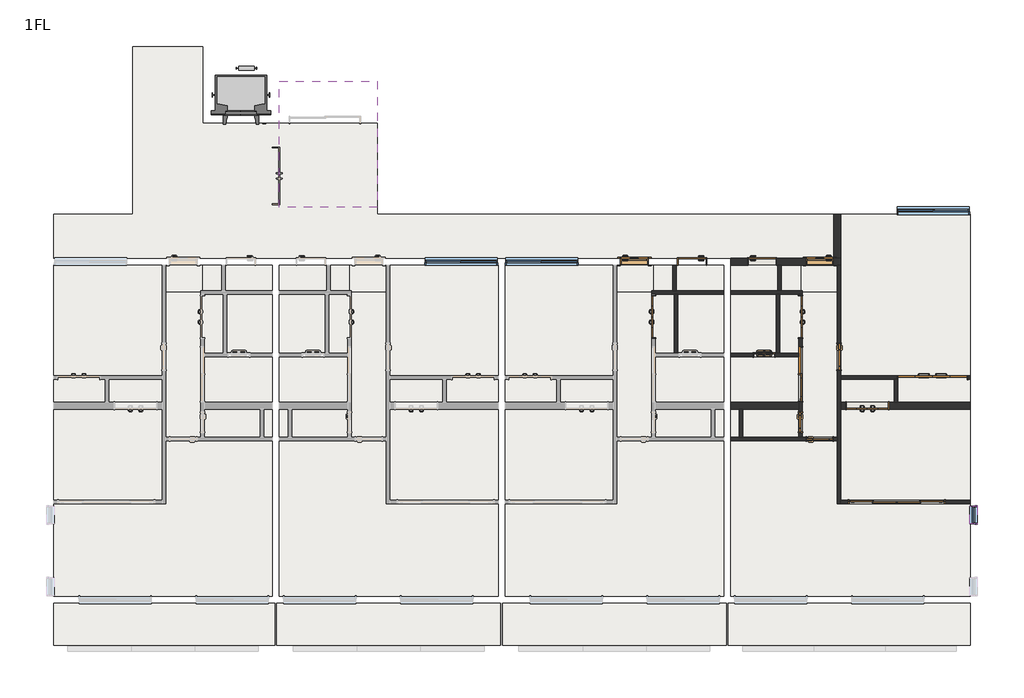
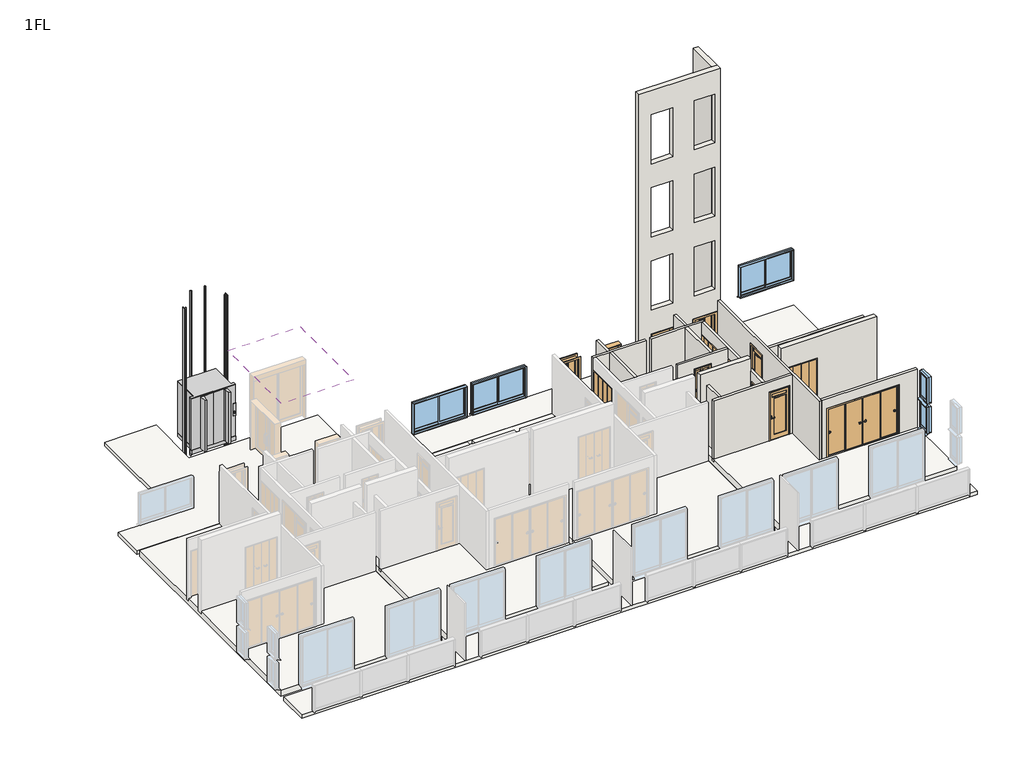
# One storey, part 3 of 3: 18 walls, 14 doors, 14 slabs, 5 windows, 1 proxy, 1 roof.
"""IFC4 building model written with IfcOpenShell, lengths in millimetres."""

from ifc_helpers import new_model, si_unit, frame, origin, place, context, project, spatial, polyline, outline, extrude, faceted_brep, transform, mapped, element, save
from components import mechanical_equipment_3dd84d69, door_1200x2000_6a144d60, door_1200x2000_ebe1d490, door_1200x2000_99d19fb3, door_1600x2000_1f5bdc43, door_2800x2000_04aa64cd, door_600x2000_8ea70a65, door_600x2000_94bb9c3c, door_800x2000_a7d1584b, door_800x2000_13e9f519, door_800x2000_ccb03061, door_800x2000_010bfebf, w2000h2000_5dbb6d6a, w800h2000_1d97c4d4, w800h2000_0ab7d42c, window_2000x1200_fc91d1cf, window_450x1000_e0a5e2da, window_450x1000_1cddc73c

model = new_model("IFC4")

# Units and contexts
model_context = context("Model", 3, world=origin())
ifc_project = project(units=[si_unit("LENGTHUNIT", "METRE", prefix="MILLI")], contexts=[model_context])

# Site, building, storey
site = spatial("IfcSite", under=ifc_project)
building = spatial("IfcBuilding", under=site)
storey = spatial("IfcBuildingStorey", under=building, Name="1FL", Elevation=1000.0)

# Proxy
placement = place(None, origin())
mechanical_equipment_shape = mechanical_equipment_3dd84d69(model_context)
element("IfcBuildingElementProxy", 1, Name="エレベータ一般 1 : 6 人乗", ObjectType="エレベータ一般 1 : 6 人乗", at=placement, inside=storey, context=model_context, shape_type="MappedRepresentation", body=[
    mapped(mechanical_equipment_shape, transform((-5728.7187246, -1650.1171638, 1000.0), x_axis=(1.0, 0.0, 0.0), y_axis=(0.0, 1.0, 0.0), z_axis=(0.0, 0.0, 1.0))),
])

# Doors
door_1200x2000_shape = door_1200x2000_6a144d60(model_context)
element("IfcDoor", 2, ObjectType="木製折戸 : 1200x2000", at=placement, inside=storey, context=model_context, shape_type="MappedRepresentation", body=[
    mapped(door_1200x2000_shape, transform((6071.2812754, -7280.1171638, 1000.0), x_axis=(0.0, 1.0, 0.0), y_axis=(-1.0, 0.0, 0.0), z_axis=(0.0, 0.0, 1.0))),
])
door_1200x2000_2_shape = door_1200x2000_ebe1d490(model_context)
element("IfcDoor", 3, ObjectType="木製折戸 : 1200x2000", at=placement, inside=storey, context=model_context, shape_type="MappedRepresentation", body=[
    mapped(door_1200x2000_2_shape, transform((12183.7812754, -9820.1171638, 1100.0), x_axis=(1.0, 0.0, 0.0), y_axis=(0.0, 1.0, 0.0), z_axis=(0.0, 0.0, 1.0))),
])
door_1200x2000_3_shape = door_1200x2000_99d19fb3(model_context)
element("IfcDoor", 4, ObjectType="木製折戸 : 1200x2000", at=placement, inside=storey, context=model_context, shape_type="MappedRepresentation", body=[
    mapped(door_1200x2000_3_shape, transform((10271.2812754, -7280.1171638, 1000.0), x_axis=(0.0, 1.0, 0.0), y_axis=(-1.0, 0.0, 0.0), z_axis=(0.0, 0.0, 1.0))),
])
door_1600x2000_shape = door_1600x2000_1f5bdc43(model_context)
element("IfcDoor", 5, ObjectType="片引戸CL2017 : 1600x2000", at=placement, inside=storey, context=model_context, shape_type="MappedRepresentation", body=[
    mapped(door_1600x2000_shape, transform((10271.2812754, -8920.1171638, 1100.0), x_axis=(0.0, -1.0, 0.0), y_axis=(1.0, 0.0, 0.0), z_axis=(0.0, 0.0, 1.0))),
])
door_2800x2000_shape = door_2800x2000_04aa64cd(model_context)
element("IfcDoor", 6, ObjectType="引違い 4 枚 2 溝_襖 : 2800x2000", at=placement, inside=storey, context=model_context, shape_type="MappedRepresentation", body=[
    mapped(door_2800x2000_shape, transform((13015.7457714, -12570.1171638, 1100.0), x_axis=(-1.0, 0.0, 0.0), y_axis=(0.0, -1.0, 0.0), z_axis=(0.0, 0.0, 1.0))),
])
door_600x2000_shape = door_600x2000_8ea70a65(model_context)
element("IfcDoor", 7, ObjectType="片開き戸CL2058 : 600x2000", at=placement, inside=storey, context=model_context, shape_type="MappedRepresentation", body=[
    mapped(door_600x2000_shape, transform((10271.2812754, -10295.1171638, 1100.0), x_axis=(0.0, -1.0, 0.0), y_axis=(1.0, 0.0, 0.0), z_axis=(0.0, 0.0, 1.0))),
])
door_600x2000_2_shape = door_600x2000_94bb9c3c(model_context)
element("IfcDoor", 8, ObjectType="浴室折戸 : 600x2000", at=placement, inside=storey, context=model_context, shape_type="MappedRepresentation", body=[
    mapped(door_600x2000_2_shape, transform((9231.2812754, -8370.1171638, 1100.0), x_axis=(-1.0, 0.0, 0.0), y_axis=(0.0, -1.0, 0.0), z_axis=(0.0, 0.0, 1.0))),
])
door_800x2000_shape = door_800x2000_a7d1584b(model_context)
element("IfcDoor", 9, ObjectType="片開き3 : 800x2000", at=placement, inside=storey, context=model_context, shape_type="MappedRepresentation", body=[
    mapped(door_800x2000_shape, transform((5521.2812754, -5700.1171638, 1000.0), x_axis=(1.0, 0.0, 0.0), y_axis=(0.0, 1.0, 0.0), z_axis=(0.0, 0.0, 1.0))),
])
door_800x2000_2_shape = door_800x2000_13e9f519(model_context)
element("IfcDoor", 10, ObjectType="片開き戸CL2058 : 800x2000", at=placement, inside=storey, context=model_context, shape_type="MappedRepresentation", body=[
    mapped(door_800x2000_2_shape, transform((10821.2812754, -10770.1171638, 1100.0), x_axis=(1.0, 0.0, 0.0), y_axis=(0.0, 1.0, 0.0), z_axis=(0.0, 0.0, 1.0))),
])
door_800x2000_3_shape = door_800x2000_ccb03061(model_context)
element("IfcDoor", 11, ObjectType="片開き戸CL2058 : 800x2000", at=placement, inside=storey, context=model_context, shape_type="MappedRepresentation", body=[
    mapped(door_800x2000_3_shape, transform((11371.2812754, -8420.1171638, 1100.0), x_axis=(0.0, -1.0, 0.0), y_axis=(1.0, 0.0, 0.0), z_axis=(0.0, 0.0, 1.0))),
])
door_800x2000_4_shape = door_800x2000_010bfebf(model_context)
element("IfcDoor", 12, ObjectType="片開き3 : 800x2000", at=placement, inside=storey, context=model_context, shape_type="MappedRepresentation", body=[
    mapped(door_800x2000_4_shape, transform((10821.2812754, -5700.1171638, 1000.0), x_axis=(-1.0, 0.0, 0.0), y_axis=(0.0, -1.0, 0.0), z_axis=(0.0, 0.0, 1.0))),
])
w2000h2000_shape = w2000h2000_5dbb6d6a(model_context)
element("IfcDoor", 13, ObjectType="木製折戸 : w2000h2000", at=placement, inside=storey, context=model_context, shape_type="MappedRepresentation", body=[
    mapped(w2000h2000_shape, transform((14046.2812754, -9020.1171638, 1000.0), x_axis=(-1.0, 0.0, 0.0), y_axis=(0.0, -1.0, 0.0), z_axis=(0.0, 0.0, 1.0))),
])
w800h2000_shape = w800h2000_1d97c4d4(model_context)
element("IfcDoor", 14, ObjectType="片開き : w800h2000", at=placement, inside=storey, context=model_context, shape_type="MappedRepresentation", body=[
    mapped(w800h2000_shape, transform((7171.2812754, -5700.1171638, 1000.0), x_axis=(-1.0, 0.0, 0.0), y_axis=(0.0, -1.0, 0.0), z_axis=(0.0, 0.0, 1.0))),
])
w800h2000_2_shape = w800h2000_0ab7d42c(model_context)
element("IfcDoor", 15, ObjectType="片開き : w800h2000", at=placement, inside=storey, context=model_context, shape_type="MappedRepresentation", body=[
    mapped(w800h2000_2_shape, transform((9171.2812754, -5700.1171638, 1000.0), x_axis=(1.0, 0.0, 0.0), y_axis=(0.0, 1.0, 0.0), z_axis=(0.0, 0.0, 1.0))),
])

# Roof
element("IfcRoof", 16, ObjectType="RC150", at=placement, inside=storey, context=model_context, shape_type="SweptSolid", body=[
    extrude(outline(polyline([(-1828.7187246, -4150.1171638), (-4628.7187246, -4150.1171638), (-4628.7187246, -550.1171638), (-1828.7187246, -550.1171638), (-1828.7187246, -4150.1171638)])), frame((0.0, 0.0, 3850.0), z_axis=(0.0, 0.0, 1.0), x_axis=(1.0, 0.0, 0.0)), (0.0, 0.0, 1.0), 150.0),
])

# Slabs
element("IfcSlab", 17, ObjectType="RC150＋100", at=placement, inside=storey, context=model_context, shape_type="SweptSolid", body=[
    extrude(outline(polyline([(-4828.7187246, -15270.1171638), (-11078.7187246, -15270.1171638), (-11078.7187246, -5800.1171638), (-7928.7187246, -5800.1171638), (-7928.7187246, -6580.1171638), (-6828.7187246, -6580.1171638), (-6828.7187246, -5800.1171638), (-4828.7187246, -5800.1171638), (-4828.7187246, -6580.1171638), (-6188.7187246, -6580.1171638), (-6188.7187246, -8370.1171638), (-4828.7187246, -8370.1171638), (-4828.7187246, -15270.1171638)])), frame((0.0, 0.0, 850.0), z_axis=(0.0, 0.0, 1.0), x_axis=(1.0, 0.0, 0.0)), (0.0, 0.0, 1.0), 250.0),
])
element("IfcSlab", 18, ObjectType="RC150＋100", at=placement, inside=storey, context=model_context, shape_type="SweptSolid", body=[
    extrude(outline(polyline([(-4628.7187246, -15270.1171638), (-4628.7187246, -8370.1171638), (-3268.7187246, -8370.1171638), (-3268.7187246, -6580.1171638), (-4628.7187246, -6580.1171638), (-4628.7187246, -5800.1171638), (-2628.7187246, -5800.1171638), (-2628.7187246, -6580.1171638), (-1528.7187246, -6580.1171638), (-1528.7187246, -5800.1171638), (1621.2812754, -5800.1171638), (1621.2812754, -15270.1171638), (-4628.7187246, -15270.1171638)])), frame((0.0, 0.0, 850.0), z_axis=(0.0, 0.0, 1.0), x_axis=(1.0, 0.0, 0.0)), (0.0, 0.0, 1.0), 250.0),
])
element("IfcSlab", 19, ObjectType="RC150＋100", at=placement, inside=storey, context=model_context, shape_type="SweptSolid", body=[
    extrude(outline(polyline([(8071.2812754, -15270.1171638), (1821.2812754, -15270.1171638), (1821.2812754, -5800.1171638), (4971.2812754, -5800.1171638), (4971.2812754, -6580.1171638), (6071.2812754, -6580.1171638), (6071.2812754, -5800.1171638), (8071.2812754, -5800.1171638), (8071.2812754, -6580.1171638), (6711.2812754, -6580.1171638), (6711.2812754, -8370.1171638), (8071.2812754, -8370.1171638), (8071.2812754, -15270.1171638)])), frame((0.0, 0.0, 850.0), z_axis=(0.0, 0.0, 1.0), x_axis=(1.0, 0.0, 0.0)), (0.0, 0.0, 1.0), 250.0),
])
element("IfcSlab", 20, ObjectType="RC150＋100", at=placement, inside=storey, context=model_context, shape_type="SweptSolid", body=[
    extrude(outline(polyline([(8271.2812754, -15270.1171638), (8271.2812754, -8370.1171638), (9631.2812754, -8370.1171638), (9631.2812754, -6580.1171638), (8271.2812754, -6580.1171638), (8271.2812754, -5800.1171638), (10271.2812754, -5800.1171638), (10271.2812754, -6580.1171638), (11371.2812754, -6580.1171638), (11371.2812754, -4350.1171638), (15121.2812754, -4350.1171638), (15121.2812754, -15270.1171638), (8271.2812754, -15270.1171638)])), frame((0.0, 0.0, 850.0), z_axis=(0.0, 0.0, 1.0), x_axis=(1.0, 0.0, 0.0)), (0.0, 0.0, 1.0), 250.0),
])
element("IfcSlab", 21, ObjectType="RC150", at=placement, inside=storey, context=model_context, shape_type="SweptSolid", body=[
    extrude(outline(polyline([(-4828.7187246, -8370.1171638), (-6188.7187246, -8370.1171638), (-6188.7187246, -6580.1171638), (-4828.7187246, -6580.1171638), (-4828.7187246, -8370.1171638)])), frame((0.0, 0.0, 850.0), z_axis=(0.0, 0.0, 1.0), x_axis=(1.0, 0.0, 0.0)), (0.0, 0.0, 1.0), 150.0),
])
element("IfcSlab", 22, ObjectType="RC150", at=placement, inside=storey, context=model_context, shape_type="SweptSolid", body=[
    extrude(outline(polyline([(-6828.7187246, -6580.1171638), (-7928.7187246, -6580.1171638), (-7928.7187246, -5800.1171638), (-6828.7187246, -5800.1171638), (-6828.7187246, -6580.1171638)])), frame((0.0, 0.0, 800.0), z_axis=(0.0, 0.0, 1.0), x_axis=(1.0, 0.0, 0.0)), (0.0, 0.0, 1.0), 150.0),
])
element("IfcSlab", 23, ObjectType="RC150", at=placement, inside=storey, context=model_context, shape_type="SweptSolid", body=[
    extrude(outline(polyline([(-4628.7187246, -8370.1171638), (-4628.7187246, -6580.1171638), (-3268.7187246, -6580.1171638), (-3268.7187246, -8370.1171638), (-4628.7187246, -8370.1171638)])), frame((0.0, 0.0, 850.0), z_axis=(0.0, 0.0, 1.0), x_axis=(1.0, 0.0, 0.0)), (0.0, 0.0, 1.0), 150.0),
])
element("IfcSlab", 24, ObjectType="RC150", at=placement, inside=storey, context=model_context, shape_type="SweptSolid", body=[
    extrude(outline(polyline([(-2628.7187246, -6580.1171638), (-2628.7187246, -5800.1171638), (-1528.7187246, -5800.1171638), (-1528.7187246, -6580.1171638), (-2628.7187246, -6580.1171638)])), frame((0.0, 0.0, 800.0), z_axis=(0.0, 0.0, 1.0), x_axis=(1.0, 0.0, 0.0)), (0.0, 0.0, 1.0), 150.0),
])
element("IfcSlab", 25, ObjectType="RC150", at=placement, inside=storey, context=model_context, shape_type="SweptSolid", body=[
    extrude(outline(polyline([(8071.2812754, -8370.1171638), (6711.2812754, -8370.1171638), (6711.2812754, -6580.1171638), (8071.2812754, -6580.1171638), (8071.2812754, -8370.1171638)])), frame((0.0, 0.0, 850.0), z_axis=(0.0, 0.0, 1.0), x_axis=(1.0, 0.0, 0.0)), (0.0, 0.0, 1.0), 150.0),
])
element("IfcSlab", 26, ObjectType="RC150", at=placement, inside=storey, context=model_context, shape_type="SweptSolid", body=[
    extrude(outline(polyline([(6071.2812754, -6580.1171638), (4971.2812754, -6580.1171638), (4971.2812754, -5800.1171638), (6071.2812754, -5800.1171638), (6071.2812754, -6580.1171638)])), frame((0.0, 0.0, 800.0), z_axis=(0.0, 0.0, 1.0), x_axis=(1.0, 0.0, 0.0)), (0.0, 0.0, 1.0), 150.0),
])
element("IfcSlab", 27, ObjectType="RC150", at=placement, inside=storey, context=model_context, shape_type="SweptSolid", body=[
    extrude(outline(polyline([(8271.2812754, -8370.1171638), (8271.2812754, -6580.1171638), (9631.2812754, -6580.1171638), (9631.2812754, -8370.1171638), (8271.2812754, -8370.1171638)])), frame((0.0, 0.0, 850.0), z_axis=(0.0, 0.0, 1.0), x_axis=(1.0, 0.0, 0.0)), (0.0, 0.0, 1.0), 150.0),
])
element("IfcSlab", 28, ObjectType="RC150", at=placement, inside=storey, context=model_context, shape_type="SweptSolid", body=[
    extrude(outline(polyline([(10271.2812754, -6580.1171638), (10271.2812754, -5800.1171638), (11371.2812754, -5800.1171638), (11371.2812754, -6580.1171638), (10271.2812754, -6580.1171638)])), frame((0.0, 0.0, 800.0), z_axis=(0.0, 0.0, 1.0), x_axis=(1.0, 0.0, 0.0)), (0.0, 0.0, 1.0), 150.0),
])
element("IfcSlab", 29, ObjectType="RC150", at=placement, inside=storey, context=model_context, shape_type="SweptSolid", body=[
    extrude(outline(polyline([(-8828.7187246, -4350.1171638), (-8828.7187246, 449.8828362), (-6828.7187246, 449.8828362), (-6828.7187246, -1750.1171638), (-1828.7187246, -1750.1171638), (-1828.7187246, -4350.1171638), (11221.2812754, -4350.1171638), (11221.2812754, -5600.1171638), (-11078.7187246, -5600.1171638), (-11078.7187246, -4350.1171638), (-8828.7187246, -4350.1171638)])), frame((0.0, 0.0, 800.0), z_axis=(0.0, 0.0, 1.0), x_axis=(1.0, 0.0, 0.0)), (0.0, 0.0, 1.0), 150.0),
])
element("IfcSlab", 30, ObjectType="RC150", at=placement, inside=storey, context=model_context, shape_type="SweptSolid", body=[
    extrude(outline(polyline([(15121.2812754, -15470.1171638), (15121.2812754, -16670.1171638), (-11078.7187246, -16670.1171638), (-11078.7187246, -15470.1171638), (15121.2812754, -15470.1171638)])), frame((0.0, 0.0, 800.0), z_axis=(0.0, 0.0, 1.0), x_axis=(1.0, 0.0, 0.0)), (0.0, 0.0, 1.0), 150.0),
])

# Walls
element("IfcWall", 31, ObjectType="(R)RC200", at=placement, inside=storey, context=model_context, shape_type="Brep", body=[
    faceted_brep([(15121.2812754, -9720.1171638, 1000.0), (13046.2812754, -9720.1171638, 1000.0), (12946.2812754, -9720.1171638, 1000.0), (11421.2812754, -9720.1171638, 1000.0), (11421.2812754, -9720.1171638, 4000.0), (15121.2812754, -9720.1171638, 4000.0), (12803.7812754, -9720.1171638, 3120.0), (11563.7812754, -9720.1171638, 3120.0), (11563.7812754, -9720.1171638, 1100.0), (12803.7812754, -9720.1171638, 1100.0), (15121.2812754, -9920.1171638, 1000.0), (15121.2812754, -9920.1171638, 4000.0), (11421.2812754, -9920.1171638, 4000.0), (11421.2812754, -9920.1171638, 1000.0), (12803.7812754, -9920.1171638, 3120.0), (12803.7812754, -9920.1171638, 1100.0), (11563.7812754, -9920.1171638, 1100.0), (11563.7812754, -9920.1171638, 3120.0)], [[[0, 1, 2, 3, 4, 5], [6, 7, 8, 9]], [[10, 11, 12, 13], [14, 15, 16, 17]], [[3, 2, 1, 0, 10, 13]], [[5, 4, 12, 11]], [[4, 3, 13, 12]], [[15, 14, 6, 9]], [[16, 15, 9, 8]], [[17, 16, 8, 7]], [[14, 17, 7, 6]], [[0, 5, 11, 10]]]),
])
element("IfcWall", 32, ObjectType="(R)RC200", at=placement, inside=storey, context=model_context, shape_type="Brep", body=[
    faceted_brep([(10221.2812754, -9720.1171638, 1000.0), (8271.2812754, -9720.1171638, 1000.0), (8271.2812754, -9720.1171638, 4000.0), (10221.2812754, -9720.1171638, 4000.0), (10221.2812754, -9720.1171638, 3100.0), (10221.2812754, -9720.1171638, 1100.0), (10221.2812754, -9920.1171638, 1000.0), (10221.2812754, -9920.1171638, 4000.0), (8271.2812754, -9920.1171638, 4000.0), (8271.2812754, -9920.1171638, 1000.0), (8521.2812754, -9920.1171638, 1000.0), (8621.2812754, -9920.1171638, 1000.0)], [[[0, 1, 2, 3, 4, 5]], [[6, 7, 8, 9, 10, 11]], [[1, 0, 6, 11, 10, 9]], [[3, 2, 8, 7]], [[0, 5, 4, 3, 7, 6]], [[2, 1, 9, 8]]]),
])
element("IfcWall", 33, ObjectType="(R)RC200", at=placement, inside=storey, context=model_context, shape_type="Brep", body=[
    faceted_brep([(8271.2812754, -5800.1171638, -200.0), (11421.2812754, -5800.1171638, -200.0), (11421.2812754, -5800.1171638, 1000.0), (11421.2812754, -5800.1171638, 3500.0), (11421.2812754, -5800.1171638, 4000.0), (11421.2812754, -5800.1171638, 6500.0), (11421.2812754, -5800.1171638, 7000.0), (11421.2812754, -5800.1171638, 9500.0), (11421.2812754, -5800.1171638, 10000.0), (11421.2812754, -5800.1171638, 12500.0), (11421.2812754, -5800.1171638, 13000.0), (8271.2812754, -5800.1171638, 13000.0), (9591.2812754, -5800.1171638, 3020.0), (9591.2812754, -5800.1171638, 1000.0), (8751.2812754, -5800.1171638, 1000.0), (8751.2812754, -5800.1171638, 3020.0), (10421.2812754, -5800.1171638, 1000.0), (10421.2812754, -5800.1171638, 3000.0), (11221.2812754, -5800.1171638, 3000.0), (11221.2812754, -5800.1171638, 1000.0), (10421.2812754, -5800.1171638, 4000.0), (10421.2812754, -5800.1171638, 6000.0), (11221.2812754, -5800.1171638, 6000.0), (11221.2812754, -5800.1171638, 4000.0), (9591.2812754, -5800.1171638, 6020.0), (9591.2812754, -5800.1171638, 4000.0), (8751.2812754, -5800.1171638, 4000.0), (8751.2812754, -5800.1171638, 6020.0), (10421.2812754, -5800.1171638, 7000.0), (10421.2812754, -5800.1171638, 9000.0), (11221.2812754, -5800.1171638, 9000.0), (11221.2812754, -5800.1171638, 7000.0), (9591.2812754, -5800.1171638, 9020.0), (9591.2812754, -5800.1171638, 7000.0), (8751.2812754, -5800.1171638, 7000.0), (8751.2812754, -5800.1171638, 9020.0), (10421.2812754, -5800.1171638, 10000.0), (10421.2812754, -5800.1171638, 12000.0), (11221.2812754, -5800.1171638, 12000.0), (11221.2812754, -5800.1171638, 10000.0), (9591.2812754, -5800.1171638, 12020.0), (9591.2812754, -5800.1171638, 10000.0), (8751.2812754, -5800.1171638, 10000.0), (8751.2812754, -5800.1171638, 12020.0), (8271.2812754, -5600.1171638, -200.0), (8271.2812754, -5600.1171638, 13000.0), (11221.2812754, -5600.1171638, 13000.0), (11421.2812754, -5600.1171638, 13000.0), (11421.2812754, -5600.1171638, -200.0), (11221.2812754, -5600.1171638, -200.0), (9591.2812754, -5600.1171638, 3020.0), (8751.2812754, -5600.1171638, 3020.0), (8751.2812754, -5600.1171638, 1000.0), (9591.2812754, -5600.1171638, 1000.0), (10421.2812754, -5600.1171638, 1000.0), (11221.2812754, -5600.1171638, 1000.0), (11221.2812754, -5600.1171638, 3000.0), (10421.2812754, -5600.1171638, 3000.0), (10421.2812754, -5600.1171638, 4000.0), (11221.2812754, -5600.1171638, 4000.0), (11221.2812754, -5600.1171638, 6000.0), (10421.2812754, -5600.1171638, 6000.0), (9591.2812754, -5600.1171638, 6020.0), (8751.2812754, -5600.1171638, 6020.0), (8751.2812754, -5600.1171638, 4000.0), (9591.2812754, -5600.1171638, 4000.0), (10421.2812754, -5600.1171638, 7000.0), (11221.2812754, -5600.1171638, 7000.0), (11221.2812754, -5600.1171638, 9000.0), (10421.2812754, -5600.1171638, 9000.0), (9591.2812754, -5600.1171638, 9020.0), (8751.2812754, -5600.1171638, 9020.0), (8751.2812754, -5600.1171638, 7000.0), (9591.2812754, -5600.1171638, 7000.0), (10421.2812754, -5600.1171638, 10000.0), (11221.2812754, -5600.1171638, 10000.0), (11221.2812754, -5600.1171638, 12000.0), (10421.2812754, -5600.1171638, 12000.0), (9591.2812754, -5600.1171638, 12020.0), (8751.2812754, -5600.1171638, 12020.0), (8751.2812754, -5600.1171638, 10000.0), (9591.2812754, -5600.1171638, 10000.0)], [[[0, 1, 2, 3, 4, 5, 6, 7, 8, 9, 10, 11], [12, 13, 14, 15], [16, 17, 18, 19], [20, 21, 22, 23], [24, 25, 26, 27], [28, 29, 30, 31], [32, 33, 34, 35], [36, 37, 38, 39], [40, 41, 42, 43]], [[44, 45, 46, 47, 48, 49], [50, 51, 52, 53], [54, 55, 56, 57], [58, 59, 60, 61], [62, 63, 64, 65], [66, 67, 68, 69], [70, 71, 72, 73], [74, 75, 76, 77], [78, 79, 80, 81]], [[1, 0, 44, 49, 48]], [[11, 10, 47, 46, 45]], [[0, 11, 45, 44]], [[13, 12, 50, 53]], [[14, 13, 53, 52]], [[15, 14, 52, 51]], [[12, 15, 51, 50]], [[17, 16, 54, 57]], [[18, 17, 57, 56]], [[19, 18, 56, 55]], [[16, 19, 55, 54]], [[21, 20, 58, 61]], [[22, 21, 61, 60]], [[23, 22, 60, 59]], [[20, 23, 59, 58]], [[25, 24, 62, 65]], [[26, 25, 65, 64]], [[27, 26, 64, 63]], [[24, 27, 63, 62]], [[29, 28, 66, 69]], [[30, 29, 69, 68]], [[31, 30, 68, 67]], [[28, 31, 67, 66]], [[33, 32, 70, 73]], [[34, 33, 73, 72]], [[35, 34, 72, 71]], [[32, 35, 71, 70]], [[37, 36, 74, 77]], [[38, 37, 77, 76]], [[39, 38, 76, 75]], [[36, 39, 75, 74]], [[41, 40, 78, 81]], [[42, 41, 81, 80]], [[43, 42, 80, 79]], [[40, 43, 79, 78]], [[1, 48, 47, 10, 9, 8, 7, 6, 5, 4, 3, 2]]]),
])
element("IfcWall", 34, ObjectType="(R)RC200", at=placement, inside=storey, context=model_context, shape_type="Brep", body=[
    faceted_brep([(11421.2812754, -5600.1171638, 13000.0), (11421.2812754, -5600.1171638, -200.0), (11421.2812754, -4350.1171638, -200.0), (11421.2812754, -4350.1171638, 13000.0), (11221.2812754, -5600.1171638, -200.0), (11221.2812754, -5600.1171638, 1000.0), (11221.2812754, -5600.1171638, 3000.0), (11221.2812754, -5600.1171638, 4000.0), (11221.2812754, -5600.1171638, 6000.0), (11221.2812754, -5600.1171638, 7000.0), (11221.2812754, -5600.1171638, 9000.0), (11221.2812754, -5600.1171638, 10000.0), (11221.2812754, -5600.1171638, 12000.0), (11221.2812754, -5600.1171638, 13000.0), (11221.2812754, -4350.1171638, 13000.0), (11221.2812754, -4350.1171638, 0.0), (11221.2812754, -4350.1171638, -200.0)], [[[0, 1, 2, 3]], [[4, 5, 6, 7, 8, 9, 10, 11, 12, 13, 14, 15, 16]], [[2, 1, 4, 16]], [[0, 3, 14, 13]], [[0, 13, 12, 11, 10, 9, 8, 7, 6, 5, 4, 1]], [[2, 16, 15, 14, 3]]]),
])
element("IfcWall", 35, ObjectType="(L1)LGS100", at=placement, inside=storey, context=model_context, shape_type="Brep", body=[
    faceted_brep([(6021.2812754, -6630.1171638, 1000.0), (6121.2812754, -6630.1171638, 1000.0), (6661.2812754, -6630.1171638, 1000.0), (6761.2812754, -6630.1171638, 1000.0), (8071.2812754, -6630.1171638, 1000.0), (8071.2812754, -6630.1171638, 3500.0), (6761.2812754, -6630.1171638, 3500.0), (6661.2812754, -6630.1171638, 3500.0), (6121.2812754, -6630.1171638, 3500.0), (6021.2812754, -6630.1171638, 3500.0), (6021.2812754, -6530.1171638, 1000.0), (6021.2812754, -6530.1171638, 3500.0), (6621.2812754, -6530.1171638, 3500.0), (6721.2812754, -6530.1171638, 3500.0), (8071.2812754, -6530.1171638, 3500.0), (8071.2812754, -6530.1171638, 1000.0), (6721.2812754, -6530.1171638, 1000.0), (6621.2812754, -6530.1171638, 1000.0)], [[[0, 1, 2, 3, 4, 5, 6, 7, 8, 9]], [[10, 11, 12, 13, 14, 15, 16, 17]], [[4, 3, 2, 1, 0, 10, 17, 16, 15]], [[9, 8, 7, 6, 5, 14, 13, 12, 11]], [[0, 9, 11, 10]], [[5, 4, 15, 14]]]),
])
element("IfcWall", 36, ObjectType="(L1)LGS100", at=placement, inside=storey, context=model_context, shape_type="SweptSolid", body=[
    extrude(outline(polyline([(6721.2812754, -5800.1171638), (6721.2812754, -6530.1171638), (6621.2812754, -6530.1171638), (6621.2812754, -5800.1171638), (6721.2812754, -5800.1171638)])), frame((0.0, 0.0, 1000.0), z_axis=(0.0, 0.0, 1.0), x_axis=(1.0, 0.0, 0.0)), (0.0, 0.0, 1.0), 2500.0),
])
element("IfcWall", 37, ObjectType="(L1)LGS100", at=placement, inside=storey, context=model_context, shape_type="SweptSolid", body=[
    extrude(outline(polyline([(6761.2812754, -6630.1171638), (6761.2812754, -8320.1171638), (6661.2812754, -8320.1171638), (6661.2812754, -6630.1171638), (6761.2812754, -6630.1171638)])), frame((0.0, 0.0, 1000.0), z_axis=(0.0, 0.0, 1.0), x_axis=(1.0, 0.0, 0.0)), (0.0, 0.0, 1.0), 2500.0),
])
element("IfcWall", 38, ObjectType="(L1)LGS100", at=placement, inside=storey, context=model_context, shape_type="Brep", body=[
    faceted_brep([(11421.2812754, -12620.1171638, 1000.0), (11421.2812754, -12520.1171638, 1000.0), (11421.2812754, -9920.1171638, 1000.0), (11421.2812754, -9720.1171638, 1000.0), (11421.2812754, -9070.1171638, 1000.0), (11421.2812754, -8970.1171638, 1000.0), (11421.2812754, -5800.1171638, 1000.0), (11421.2812754, -5800.1171638, 3500.0), (11421.2812754, -8970.1171638, 3500.0), (11421.2812754, -9070.1171638, 3500.0), (11421.2812754, -12520.1171638, 3500.0), (11421.2812754, -12620.1171638, 3500.0), (11421.2812754, -8820.1171638, 1100.0), (11421.2812754, -8820.1171638, 3100.0), (11421.2812754, -8020.1171638, 3100.0), (11421.2812754, -8020.1171638, 1100.0), (11321.2812754, -12620.1171638, 1000.0), (11321.2812754, -12620.1171638, 3500.0), (11321.2812754, -10820.1171638, 3500.0), (11321.2812754, -10720.1171638, 3500.0), (11321.2812754, -5800.1171638, 3500.0), (11321.2812754, -5800.1171638, 1000.0), (11321.2812754, -10720.1171638, 1000.0), (11321.2812754, -10820.1171638, 1000.0), (11321.2812754, -8820.1171638, 1100.0), (11321.2812754, -8020.1171638, 1100.0), (11321.2812754, -8020.1171638, 3100.0), (11321.2812754, -8820.1171638, 3100.0)], [[[0, 1, 2, 3, 4, 5, 6, 7, 8, 9, 10, 11], [12, 13, 14, 15]], [[16, 17, 18, 19, 20, 21, 22, 23], [24, 25, 26, 27]], [[6, 5, 4, 3, 2, 1, 0, 16, 23, 22, 21]], [[11, 10, 9, 8, 7, 20, 19, 18, 17]], [[0, 11, 17, 16]], [[13, 12, 24, 27]], [[14, 13, 27, 26]], [[15, 14, 26, 25]], [[12, 15, 25, 24]], [[7, 6, 21, 20]]]),
])
element("IfcWall", 39, ObjectType="(L1)LGS100", at=placement, inside=storey, context=model_context, shape_type="Brep", body=[
    faceted_brep([(10321.2812754, -6630.1171638, 3500.0), (10321.2812754, -10720.1171638, 3500.0), (10321.2812754, -10720.1171638, 1000.0), (10321.2812754, -7900.1171638, 1000.0), (10321.2812754, -7900.1171638, 3020.0), (10321.2812754, -6660.1171638, 3020.0), (10321.2812754, -6660.1171638, 1000.0), (10321.2812754, -6630.1171638, 1000.0), (10321.2812754, -10595.1171638, 1100.0), (10321.2812754, -10595.1171638, 3100.0), (10321.2812754, -9995.1171638, 3100.0), (10321.2812754, -9995.1171638, 1100.0), (10321.2812754, -9720.1171638, 1100.0), (10321.2812754, -9720.1171638, 3100.0), (10321.2812754, -8120.1171638, 3100.0), (10321.2812754, -8120.1171638, 1100.0), (10221.2812754, -10720.1171638, 3500.0), (10221.2812754, -8420.1171638, 3500.0), (10221.2812754, -8320.1171638, 3500.0), (10221.2812754, -6630.1171638, 3500.0), (10221.2812754, -6630.1171638, 1000.0), (10221.2812754, -6660.1171638, 1000.0), (10221.2812754, -6660.1171638, 3020.0), (10221.2812754, -7900.1171638, 3020.0), (10221.2812754, -7900.1171638, 1000.0), (10221.2812754, -8320.1171638, 1000.0), (10221.2812754, -8420.1171638, 1000.0), (10221.2812754, -9720.1171638, 1000.0), (10221.2812754, -9920.1171638, 1000.0), (10221.2812754, -10720.1171638, 1000.0), (10221.2812754, -10595.1171638, 1100.0), (10221.2812754, -9995.1171638, 1100.0), (10221.2812754, -9995.1171638, 3100.0), (10221.2812754, -10595.1171638, 3100.0), (10221.2812754, -9720.1171638, 3100.0), (10221.2812754, -9720.1171638, 1100.0), (10221.2812754, -8120.1171638, 1100.0), (10221.2812754, -8120.1171638, 3100.0)], [[[0, 1, 2, 3, 4, 5, 6, 7], [8, 9, 10, 11], [12, 13, 14, 15]], [[16, 17, 18, 19, 20, 21, 22, 23, 24, 25, 26, 27, 28, 29], [30, 31, 32, 33], [34, 35, 36, 37]], [[2, 29, 28, 27, 26, 25, 24, 3]], [[20, 7, 6, 21]], [[1, 0, 19, 18, 17, 16]], [[2, 1, 16, 29]], [[0, 7, 20, 19]], [[9, 8, 30, 33]], [[10, 9, 33, 32]], [[11, 10, 32, 31]], [[8, 11, 31, 30]], [[12, 35, 34, 13]], [[13, 34, 37, 14]], [[14, 37, 36, 15]], [[35, 12, 15, 36]], [[6, 5, 22, 21]], [[4, 3, 24, 23]], [[5, 4, 23, 22]]]),
])
element("IfcWall", 40, ObjectType="(L1)LGS100", at=placement, inside=storey, context=model_context, shape_type="Brep", body=[
    faceted_brep([(10321.2812754, -6530.1171638, 1000.0), (9721.2812754, -6530.1171638, 1000.0), (9621.2812754, -6530.1171638, 1000.0), (8271.2812754, -6530.1171638, 1000.0), (8271.2812754, -6530.1171638, 3500.0), (9621.2812754, -6530.1171638, 3500.0), (9721.2812754, -6530.1171638, 3500.0), (10321.2812754, -6530.1171638, 3500.0), (10321.2812754, -6630.1171638, 1000.0), (10321.2812754, -6630.1171638, 3500.0), (10221.2812754, -6630.1171638, 3500.0), (9681.2812754, -6630.1171638, 3500.0), (9581.2812754, -6630.1171638, 3500.0), (8271.2812754, -6630.1171638, 3500.0), (8271.2812754, -6630.1171638, 1000.0), (9581.2812754, -6630.1171638, 1000.0), (9681.2812754, -6630.1171638, 1000.0), (10221.2812754, -6630.1171638, 1000.0)], [[[0, 1, 2, 3, 4, 5, 6, 7]], [[8, 9, 10, 11, 12, 13, 14, 15, 16, 17]], [[3, 2, 1, 0, 8, 17, 16, 15, 14]], [[7, 6, 5, 4, 13, 12, 11, 10, 9]], [[0, 7, 9, 8]], [[4, 3, 14, 13]]]),
])
element("IfcWall", 41, ObjectType="(L1)LGS100", at=placement, inside=storey, context=model_context, shape_type="SweptSolid", body=[
    extrude(outline(polyline([(9721.2812754, -5800.1171638), (9721.2812754, -6530.1171638), (9621.2812754, -6530.1171638), (9621.2812754, -5800.1171638), (9721.2812754, -5800.1171638)])), frame((0.0, 0.0, 1000.0), z_axis=(0.0, 0.0, 1.0), x_axis=(1.0, 0.0, 0.0)), (0.0, 0.0, 1.0), 2500.0),
])
element("IfcWall", 42, ObjectType="(L1)LGS100", at=placement, inside=storey, context=model_context, shape_type="SweptSolid", body=[
    extrude(outline(polyline([(9681.2812754, -6630.1171638), (9681.2812754, -8320.1171638), (9581.2812754, -8320.1171638), (9581.2812754, -6630.1171638), (9681.2812754, -6630.1171638)])), frame((0.0, 0.0, 1000.0), z_axis=(0.0, 0.0, 1.0), x_axis=(1.0, 0.0, 0.0)), (0.0, 0.0, 1.0), 2500.0),
])
element("IfcWall", 43, ObjectType="(L1)LGS100", at=placement, inside=storey, context=model_context, shape_type="Brep", body=[
    faceted_brep([(10221.2812754, -8320.1171638, 1000.0), (9681.2812754, -8320.1171638, 1000.0), (9581.2812754, -8320.1171638, 1000.0), (8271.2812754, -8320.1171638, 1000.0), (8271.2812754, -8320.1171638, 3500.0), (9581.2812754, -8320.1171638, 3500.0), (9681.2812754, -8320.1171638, 3500.0), (10221.2812754, -8320.1171638, 3500.0), (8911.2812754, -8320.1171638, 3120.0), (8911.2812754, -8320.1171638, 1100.0), (9551.2812754, -8320.1171638, 1100.0), (9551.2812754, -8320.1171638, 3120.0), (10221.2812754, -8420.1171638, 1000.0), (10221.2812754, -8420.1171638, 3500.0), (8271.2812754, -8420.1171638, 3500.0), (8271.2812754, -8420.1171638, 1000.0), (8911.2812754, -8420.1171638, 3120.0), (9551.2812754, -8420.1171638, 3120.0), (9551.2812754, -8420.1171638, 1100.0), (8911.2812754, -8420.1171638, 1100.0)], [[[0, 1, 2, 3, 4, 5, 6, 7], [8, 9, 10, 11]], [[12, 13, 14, 15], [16, 17, 18, 19]], [[3, 2, 1, 0, 12, 15]], [[7, 6, 5, 4, 14, 13]], [[0, 7, 13, 12]], [[9, 8, 16, 19]], [[10, 9, 19, 18]], [[11, 10, 18, 17]], [[8, 11, 17, 16]], [[4, 3, 15, 14]]]),
])
element("IfcWall", 44, ObjectType="(L1)LGS100", at=placement, inside=storey, context=model_context, shape_type="Brep", body=[
    faceted_brep([(11321.2812754, -10720.1171638, 1000.0), (10321.2812754, -10720.1171638, 1000.0), (10221.2812754, -10720.1171638, 1000.0), (8621.2812754, -10720.1171638, 1000.0), (8521.2812754, -10720.1171638, 1000.0), (8271.2812754, -10720.1171638, 1000.0), (8271.2812754, -10720.1171638, 3500.0), (8521.2812754, -10720.1171638, 3500.0), (8621.2812754, -10720.1171638, 3500.0), (10221.2812754, -10720.1171638, 3500.0), (10321.2812754, -10720.1171638, 3500.0), (11321.2812754, -10720.1171638, 3500.0), (11221.2812754, -10720.1171638, 1100.0), (11221.2812754, -10720.1171638, 3100.0), (10421.2812754, -10720.1171638, 3100.0), (10421.2812754, -10720.1171638, 1100.0), (11321.2812754, -10820.1171638, 1000.0), (11321.2812754, -10820.1171638, 3500.0), (8271.2812754, -10820.1171638, 3500.0), (8271.2812754, -10820.1171638, 1000.0), (11221.2812754, -10820.1171638, 1100.0), (10421.2812754, -10820.1171638, 1100.0), (10421.2812754, -10820.1171638, 3100.0), (11221.2812754, -10820.1171638, 3100.0)], [[[0, 1, 2, 3, 4, 5, 6, 7, 8, 9, 10, 11], [12, 13, 14, 15]], [[16, 17, 18, 19], [20, 21, 22, 23]], [[5, 4, 3, 2, 1, 0, 16, 19]], [[11, 10, 9, 8, 7, 6, 18, 17]], [[0, 11, 17, 16]], [[13, 12, 20, 23]], [[14, 13, 23, 22]], [[15, 14, 22, 21]], [[12, 15, 21, 20]], [[6, 5, 19, 18]]]),
])
element("IfcWall", 45, ObjectType="(L1)LGS100", at=placement, inside=storey, context=model_context, shape_type="SweptSolid", body=[
    extrude(outline(polyline([(8621.2812754, -9920.1171638), (8621.2812754, -10720.1171638), (8521.2812754, -10720.1171638), (8521.2812754, -9920.1171638), (8621.2812754, -9920.1171638)])), frame((0.0, 0.0, 1000.0), z_axis=(0.0, 0.0, 1.0), x_axis=(1.0, 0.0, 0.0)), (0.0, 0.0, 1.0), 2500.0),
])
element("IfcWall", 46, ObjectType="(L1)LGS100", at=placement, inside=storey, context=model_context, shape_type="Brep", body=[
    faceted_brep([(15121.2812754, -8970.1171638, 1000.0), (15066.2812754, -8970.1171638, 1000.0), (15066.2812754, -8970.1171638, 3020.0), (13026.2812754, -8970.1171638, 3020.0), (13026.2812754, -8970.1171638, 1000.0), (11421.2812754, -8970.1171638, 1000.0), (11421.2812754, -8970.1171638, 3500.0), (15121.2812754, -8970.1171638, 3500.0), (15066.2812754, -9070.1171638, 3020.0), (15066.2812754, -9070.1171638, 1000.0), (15121.2812754, -9070.1171638, 1000.0), (15121.2812754, -9070.1171638, 3500.0), (13046.2812754, -9070.1171638, 3500.0), (12946.2812754, -9070.1171638, 3500.0), (11421.2812754, -9070.1171638, 3500.0), (11421.2812754, -9070.1171638, 1000.0), (12946.2812754, -9070.1171638, 1000.0), (13026.2812754, -9070.1171638, 1000.0), (13026.2812754, -9070.1171638, 3020.0)], [[[0, 1, 2, 3, 4, 5, 6, 7]], [[8, 9, 10, 11, 12, 13, 14, 15, 16, 17, 18]], [[10, 9, 1, 0]], [[17, 16, 15, 5, 4]], [[7, 6, 14, 13, 12, 11]], [[6, 5, 15, 14]], [[4, 3, 18, 17]], [[2, 1, 9, 8]], [[3, 2, 8, 18]], [[0, 7, 11, 10]]]),
])
element("IfcWall", 47, ObjectType="(L1)LGS100", at=placement, inside=storey, context=model_context, shape_type="Brep", body=[
    faceted_brep([(13046.2812754, -9720.1171638, 1000.0), (13046.2812754, -9070.1171638, 1000.0), (13046.2812754, -9070.1171638, 3500.0), (13046.2812754, -9720.1171638, 3500.0), (12946.2812754, -9720.1171638, 1000.0), (12946.2812754, -9720.1171638, 3500.0), (12946.2812754, -9070.1171638, 3500.0), (12946.2812754, -9070.1171638, 1000.0), (13026.2812754, -9070.1171638, 1000.0)], [[[0, 1, 2, 3]], [[4, 5, 6, 7]], [[1, 0, 4, 7, 8]], [[3, 2, 6, 5]], [[0, 3, 5, 4]], [[2, 1, 8, 7, 6]]]),
])
element("IfcWall", 48, ObjectType="(L1)LGS100", at=placement, inside=storey, context=model_context, shape_type="SweptSolid", body=[
    extrude(outline(polyline([(1000.0, 15121.2812754), (3500.0, 15121.2812754), (3500.0, 11421.2812754), (1000.0, 11421.2812754), (1000.0, 15121.2812754)]), holes=[polyline([(3100.0, 11621.2812754), (3100.0, 14421.2812754), (1100.0, 14421.2812754), (1100.0, 11621.2812754), (3100.0, 11621.2812754)])]), frame((0.0, -12620.1171638, 0.0), z_axis=(0.0, 1.0, 0.0), x_axis=(0.0, 0.0, 1.0)), (0.0, 0.0, 1.0), 100.0),
])

# Windows
window_2000x1200_shape = window_2000x1200_fc91d1cf(model_context)
element("IfcWindow", 49, ObjectType="鋼製_一般枠_引違い-二枚 : 2000x1200", at=placement, inside=storey, context=model_context, shape_type="MappedRepresentation", body=[
    mapped(window_2000x1200_shape, transform((571.2812754, -5700.1171638, 1250.0), x_axis=(1.0, 0.0, 0.0), y_axis=(0.0, 1.0, 0.0), z_axis=(0.0, 0.0, 1.0))),
])
element("IfcWindow", 50, ObjectType="鋼製_一般枠_引違い-二枚 : 2000x1200", at=placement, inside=storey, context=model_context, shape_type="MappedRepresentation", body=[
    mapped(window_2000x1200_shape, transform((2871.2812754, -5700.1171638, 1250.0), x_axis=(1.0, 0.0, 0.0), y_axis=(0.0, 1.0, 0.0), z_axis=(0.0, 0.0, 1.0))),
])
element("IfcWindow", 51, ObjectType="鋼製_一般枠_引違い-二枚 : 2000x1200", at=placement, inside=storey, context=model_context, shape_type="MappedRepresentation", body=[
    mapped(window_2000x1200_shape, transform((14071.2812754, -4250.1171638, 1250.0), x_axis=(1.0, 0.0, 0.0), y_axis=(0.0, 1.0, 0.0), z_axis=(0.0, 0.0, 1.0))),
])
window_450x1000_shape = window_450x1000_e0a5e2da(model_context)
element("IfcWindow", 52, ObjectType="鋼製_一般枠_嵌殺し : 450x1000", at=placement, inside=storey, context=model_context, shape_type="MappedRepresentation", body=[
    mapped(window_450x1000_shape, transform((15221.2812754, -12945.1171638, 1230.0), x_axis=(0.0, 1.0, 0.0), y_axis=(-1.0, 0.0, 0.0), z_axis=(0.0, 0.0, 1.0))),
])
window_450x1000_2_shape = window_450x1000_1cddc73c(model_context)
element("IfcWindow", 53, ObjectType="鋼製_一般枠_嵌殺し : 450x1000", at=placement, inside=storey, context=model_context, shape_type="MappedRepresentation", body=[
    mapped(window_450x1000_2_shape, transform((15221.2812754, -12945.1171638, 10.0), x_axis=(0.0, -1.0, 0.0), y_axis=(1.0, 0.0, 0.0), z_axis=(0.0, 0.0, 1.0))),
])

save(model, "model.ifc")
